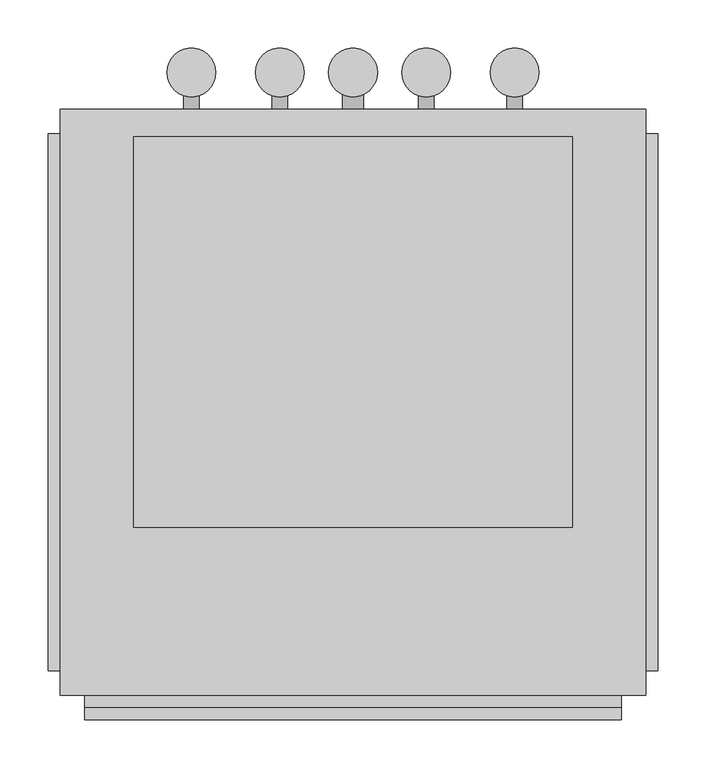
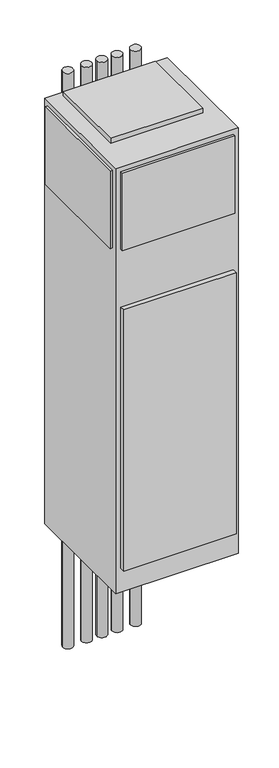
"""IFC4 building model written with IfcOpenShell, lengths in millimetres: proxy geometry, Concealed_Universal_Modular_Fan_Coil_Unit_-_42SUB_-_CARRIER_-_4-Pipe_-_WithRisers_2022 : Size 10 - 277v/60Hz/1Ph - 4/1 Coil."""

from ifc_helpers import new_model, si_unit, point, frame, frame_2d, origin, origin_with_axes, place, context, project, spatial, polyline, circle_curve, trimmed, segment, composite_curve, outline, extrude, source, transform, mapped, element, save


def mechanical_equipment_fe32acea(model_context):
    return source(origin(), model_context, "Body", "SweptSolid", [
        extrude(outline(composite_curve([segment(trimmed(circle_curve(frame_2d((288.925, 282.575)), 25.4), [point((263.525, 282.575))], [point((314.325, 282.575))], False, "CARTESIAN"), True, "CONTINUOUS"), segment(trimmed(circle_curve(frame_2d((288.925, 282.575)), 25.4), [point((314.325, 282.575))], [point((263.525, 282.575))], False, "CARTESIAN"), True, "CONTINUOUS")], self_intersect=False)), frame((0.0, 0.0, -711.2), z_axis=(0.0, 0.0, 1.0), x_axis=(1.0, 0.0, 0.0)), (0.0, 0.0, 1.0), 3022.6),
        extrude(outline(composite_curve([segment(trimmed(circle_curve(frame_2d((381.0, 282.575)), 25.4), [point((355.6, 282.575))], [point((406.4, 282.575))], False, "CARTESIAN"), True, "CONTINUOUS"), segment(trimmed(circle_curve(frame_2d((381.0, 282.575)), 25.4), [point((406.4, 282.575))], [point((355.6, 282.575))], False, "CARTESIAN"), True, "CONTINUOUS")], self_intersect=False)), frame((0.0, 0.0, -711.2), z_axis=(0.0, 0.0, 1.0), x_axis=(1.0, 0.0, 0.0)), (0.0, 0.0, 1.0), 3022.6),
        extrude(outline(composite_curve([segment(trimmed(circle_curve(frame_2d((457.2, 282.575)), 25.4), [point((431.8, 282.575))], [point((482.6, 282.575))], False, "CARTESIAN"), True, "CONTINUOUS"), segment(trimmed(circle_curve(frame_2d((457.2, 282.575)), 25.4), [point((482.6, 282.575))], [point((431.8, 282.575))], False, "CARTESIAN"), True, "CONTINUOUS")], self_intersect=False)), frame((0.0, 0.0, -711.2), z_axis=(0.0, 0.0, 1.0), x_axis=(1.0, 0.0, 0.0)), (0.0, 0.0, 1.0), 3022.6),
        extrude(outline(composite_curve([segment(trimmed(circle_curve(frame_2d((533.4, 282.575)), 25.4), [point((508.0, 282.575))], [point((558.8, 282.575))], False, "CARTESIAN"), True, "CONTINUOUS"), segment(trimmed(circle_curve(frame_2d((533.4, 282.575)), 25.4), [point((558.8, 282.575))], [point((508.0, 282.575))], False, "CARTESIAN"), True, "CONTINUOUS")], self_intersect=False)), frame((0.0, 0.0, -711.2), z_axis=(0.0, 0.0, 1.0), x_axis=(1.0, 0.0, 0.0)), (0.0, 0.0, 1.0), 3022.6),
        extrude(outline(composite_curve([segment(trimmed(circle_curve(frame_2d((625.475, 282.575)), 25.4), [point((600.075, 282.575))], [point((650.875, 282.575))], False, "CARTESIAN"), True, "CONTINUOUS"), segment(trimmed(circle_curve(frame_2d((625.475, 282.575)), 25.4), [point((650.875, 282.575))], [point((600.075, 282.575))], False, "CARTESIAN"), True, "CONTINUOUS")], self_intersect=False)), frame((0.0, 0.0, -711.2), z_axis=(0.0, 0.0, 1.0), x_axis=(1.0, 0.0, 0.0)), (0.0, 0.0, 1.0), 3022.6),
        extrude(outline(composite_curve([segment(trimmed(circle_curve(frame_2d((990.6, 625.475)), 7.9375), [point((990.6, 617.5375))], [point((990.6, 633.4125))], False, "CARTESIAN"), True, "CONTINUOUS"), segment(trimmed(circle_curve(frame_2d((990.6, 625.475)), 7.9375), [point((990.6, 633.4125))], [point((990.6, 617.5375))], False, "CARTESIAN"), True, "CONTINUOUS")], self_intersect=False)), frame((0.0, 244.475, 0.0), z_axis=(0.0, 1.0, 0.0), x_axis=(0.0, 0.0, 1.0)), (0.0, 0.0, 1.0), 50.8),
        extrude(outline(composite_curve([segment(trimmed(circle_curve(frame_2d((990.6, 533.4)), 7.9375), [point((990.6, 525.4625))], [point((990.6, 541.3375))], False, "CARTESIAN"), True, "CONTINUOUS"), segment(trimmed(circle_curve(frame_2d((990.6, 533.4)), 7.9375), [point((990.6, 541.3375))], [point((990.6, 525.4625))], False, "CARTESIAN"), True, "CONTINUOUS")], self_intersect=False)), frame((0.0, 244.475, 0.0), z_axis=(0.0, 1.0, 0.0), x_axis=(0.0, 0.0, 1.0)), (0.0, 0.0, 1.0), 50.8),
        extrude(outline(composite_curve([segment(trimmed(circle_curve(frame_2d((990.6, 381.0)), 7.9375), [point((990.6, 373.0625))], [point((990.6, 388.9375))], False, "CARTESIAN"), True, "CONTINUOUS"), segment(trimmed(circle_curve(frame_2d((990.6, 381.0)), 7.9375), [point((990.6, 388.9375))], [point((990.6, 373.0625))], False, "CARTESIAN"), True, "CONTINUOUS")], self_intersect=False)), frame((0.0, 244.475, 0.0), z_axis=(0.0, 1.0, 0.0), x_axis=(0.0, 0.0, 1.0)), (0.0, 0.0, 1.0), 50.8),
        extrude(outline(composite_curve([segment(trimmed(circle_curve(frame_2d((990.6, 288.925)), 7.9375), [point((990.6, 280.9875))], [point((990.6, 296.8625))], False, "CARTESIAN"), True, "CONTINUOUS"), segment(trimmed(circle_curve(frame_2d((990.6, 288.925)), 7.9375), [point((990.6, 296.8625))], [point((990.6, 280.9875))], False, "CARTESIAN"), True, "CONTINUOUS")], self_intersect=False)), frame((0.0, 244.475, 0.0), z_axis=(0.0, 1.0, 0.0), x_axis=(0.0, 0.0, 1.0)), (0.0, 0.0, 1.0), 50.8),
        extrude(outline(composite_curve([segment(trimmed(circle_curve(frame_2d((76.2, 457.2)), 11.1125), [point((76.2, 446.0875))], [point((76.2, 468.3125))], False, "CARTESIAN"), True, "CONTINUOUS"), segment(trimmed(circle_curve(frame_2d((76.2, 457.2)), 11.1125), [point((76.2, 468.3125))], [point((76.2, 446.0875))], False, "CARTESIAN"), True, "CONTINUOUS")], self_intersect=False)), frame((0.0, 244.475, 0.0), z_axis=(0.0, 1.0, 0.0), x_axis=(0.0, 0.0, 1.0)), (0.0, 0.0, 1.0), 50.8),
        extrude(outline(polyline([(685.8, 215.9), (685.8, -190.5), (228.6, -190.5), (228.6, 215.9), (685.8, 215.9)])), frame((0.0, 0.0, 2235.2), z_axis=(0.0, 0.0, 1.0), x_axis=(1.0, 0.0, 0.0)), (0.0, 0.0, 1.0), 25.4),
        extrude(outline(polyline([(139.7, -339.725), (139.7, 219.075), (152.4, 219.075), (152.4, -339.725), (139.7, -339.725)])), frame((0.0, 0.0, 1803.4), z_axis=(0.0, 0.0, 1.0), x_axis=(1.0, 0.0, 0.0)), (0.0, 0.0, 1.0), 406.4),
        extrude(outline(polyline([(774.7, 219.075), (774.7, -339.725), (762.0, -339.725), (762.0, 219.075), (774.7, 219.075)])), frame((0.0, 0.0, 1803.4), z_axis=(0.0, 0.0, 1.0), x_axis=(1.0, 0.0, 0.0)), (0.0, 0.0, 1.0), 406.4),
        extrude(outline(polyline([(736.6, -377.825), (177.8, -377.825), (177.8, -365.125), (736.6, -365.125), (736.6, -377.825)])), frame((0.0, 0.0, 1803.4), z_axis=(0.0, 0.0, 1.0), x_axis=(1.0, 0.0, 0.0)), (0.0, 0.0, 1.0), 406.4),
        extrude(outline(polyline([(736.6, -390.525), (177.8, -390.525), (177.8, -365.125), (736.6, -365.125), (736.6, -390.525)])), frame((0.0, 0.0, 127.0), z_axis=(0.0, 0.0, 1.0), x_axis=(1.0, 0.0, 0.0)), (0.0, 0.0, 1.0), 1371.6),
        extrude(outline(polyline([(762.0, 244.475), (762.0, -365.125), (152.4, -365.125), (152.4, 244.475), (762.0, 244.475)])), origin_with_axes(), (0.0, 0.0, 1.0), 2235.2),
    ])


if __name__ == "__main__":
    model = new_model("IFC4")
    model_context = context("Model", 3, world=origin())
    ifc_project = project(units=[si_unit("LENGTHUNIT", "METRE", prefix="MILLI")], contexts=[model_context])
    site = spatial("IfcSite", under=ifc_project)
    building = spatial("IfcBuilding", under=site)
    placement = place(None, origin())
    mechanical_equipment_shape = mechanical_equipment_fe32acea(model_context)
    element("IfcBuildingElementProxy", 1, Name="Concealed_Universal_Modular_Fan_Coil_Unit_-_42SUB_-_CARRIER_-_4-Pipe_-_WithRisers_2022 : Size 10 - 277v/60Hz/1Ph - 4/1 Coil", ObjectType="Concealed_Universal_Modular_Fan_Coil_Unit_-_42SUB_-_CARRIER_-_4-Pipe_-_WithRisers_2022 : Size 10 - 277v/60Hz/1Ph - 4/1 Coil", at=placement, inside=building, context=model_context, shape_type="MappedRepresentation", body=[
        mapped(mechanical_equipment_shape, transform((0.0, 0.0, 0.0), x_axis=(1.0, 0.0, 0.0), y_axis=(0.0, 1.0, 0.0), z_axis=(0.0, 0.0, 1.0))),
    ])
    save(model, "model.ifc")
